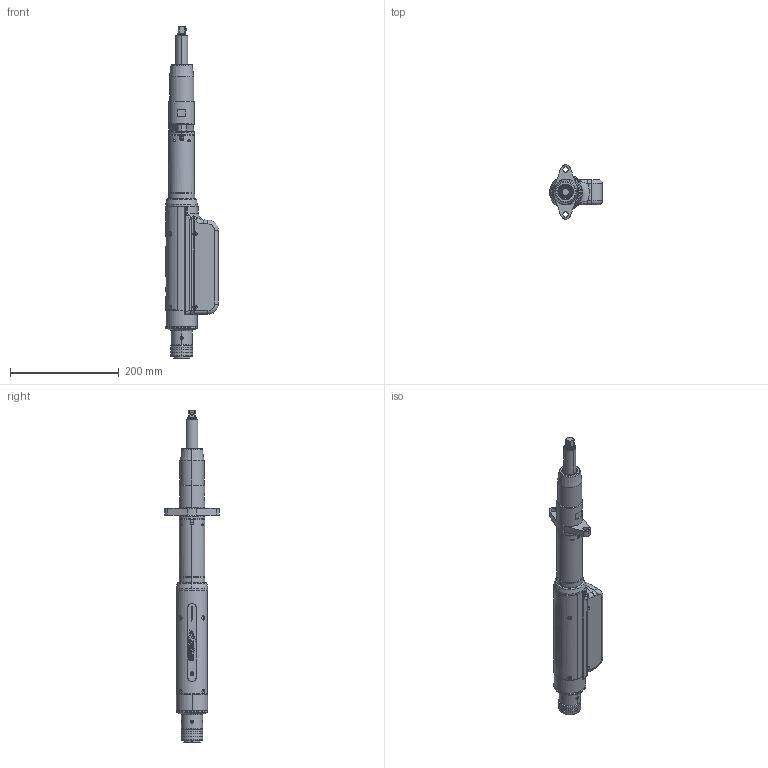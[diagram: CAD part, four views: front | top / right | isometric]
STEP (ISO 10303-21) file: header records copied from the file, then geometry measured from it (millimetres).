
FILE_DESCRIPTION (( 'STEP AP203' ), '1' );
FILE_NAME ('AEF35070A, AEF35090A, AEF35110A, AEF35135A & AEF35170A.STEP', '2012-04-17T18:20:24', ( 'AIMCO' ), ( '' ), 'SwSTEP 2.0', 'SolidWorks 2012', '' );
FILE_SCHEMA (( 'CONFIG_CONTROL_DESIGN' ));
Length unit declared in the file: inch
Products named in the file (1): AEF35070A, AEF35090A, AEF35110A, AEF35135A & AEF35170A
Bounding box: 96.84 x 100.03 x 609.55 mm (x, y, z)
Surface area: 174826.4 mm2 (no closed solid volume)
Topology: 0 solids, 59 shells, 738 faces, 2566 edges, 1810 vertices
Faces by surface type: cylinder 235, plane 214, bspline 113, torus 93, cone 80, sphere 3
Entity records: 35179 total; most frequent: CARTESIAN_POINT 14732, ORIENTED_EDGE 3952, DIRECTION 3895, EDGE_CURVE 2562, VERTEX_POINT 1810, AXIS2_PLACEMENT_3D 1387, VECTOR 1121, LINE 1121
